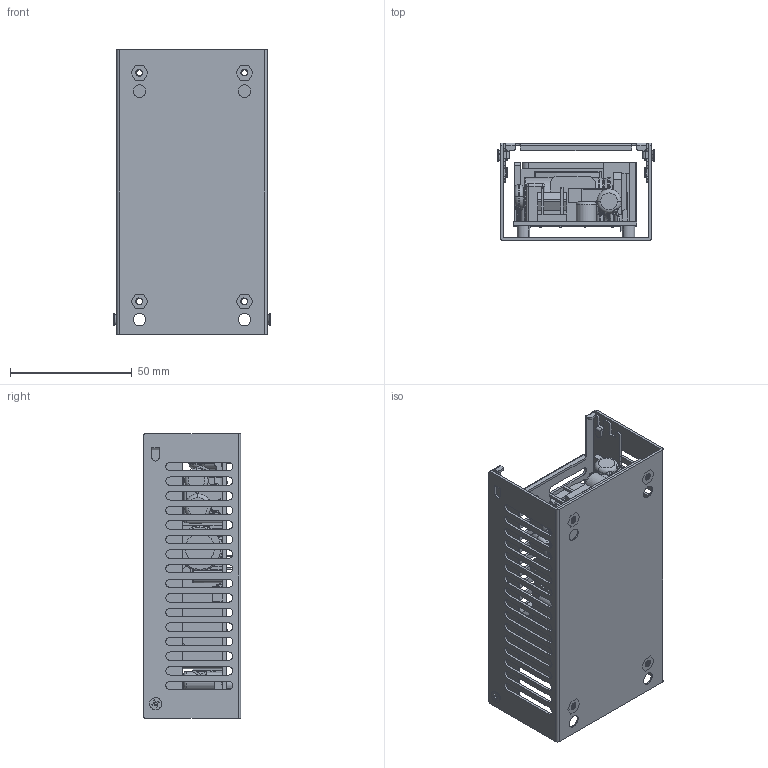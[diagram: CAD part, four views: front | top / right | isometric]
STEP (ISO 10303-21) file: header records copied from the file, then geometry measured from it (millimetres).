
FILE_DESCRIPTION (( 'STEP AP214' ), '1' );
FILE_NAME ('CFM60S240-CA.STEP', '2018-01-12T03:49:26', ( 'cincon' ), ( '' ), 'SwSTEP 2.0', 'SolidWorks 2008', '' );
FILE_SCHEMA (( 'AUTOMOTIVE_DESIGN' ));
Length unit declared in the file: millimetre
Products named in the file (15): 平頭十字螺絲 M3x4mm_預設; 2inx4in(CFM40-60) 金屬外殼-上蓋(M-B077-00-J)G6680040101; 3 PIN插座(2PIN)971208; CFM40 60S金屬下蓋(配合10mm銅柱); 4 PIN插座971208; vr-1_預設; CFM-M3x6mm銅柱_010518; TO-92B; 電晶體10mm(附螺絲); CFM60S240_預設; CFM40 60變壓器A 971208; 18.3mm電容; CFM60S120_PCB(980209); 2inx4in金屬下蓋(配合10mm銅柱)_預設; CFM60S240-CA
Assembly tree (18 placements, depth 3):
  CFM60S240-CA
    平頭十字螺絲 M3x4mm_預設  x2
    2inx4in金屬下蓋(配合10mm銅柱)_預設
      CFM-M3x6mm銅柱_010518  x4
      CFM40 60S金屬下蓋(配合10mm銅柱)
    2inx4in(CFM40-60) 金屬外殼-上蓋(M-B077-00-J)G6680040101
    CFM60S240_預設
      CFM60S120_PCB(980209)
      3 PIN插座(2PIN)971208
      18.3mm電容
      vr-1_預設
      TO-92B
      4 PIN插座971208
      CFM40 60變壓器A 971208
      電晶體10mm(附螺絲)
Bounding box: 64.42 x 40 x 117 mm (x, y, z)
Volume: 80337.7 mm3; surface area: 82951.1 mm2
Topology: 22 solids, 22 shells, 2316 faces, 5943 edges, 3736 vertices
Faces by surface type: plane 984, cylinder 927, torus 223, bspline 137, cone 40, sphere 5
Entity records: 89677 total; most frequent: CARTESIAN_POINT 26300, ORIENTED_EDGE 10944, DIRECTION 10944, EDGE_CURVE 5472, AXIS2_PLACEMENT_3D 3912, VERTEX_POINT 3433, VECTOR 3120, LINE 3120
